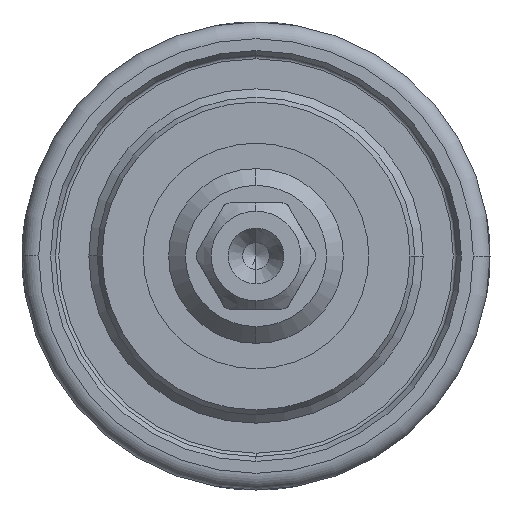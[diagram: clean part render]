
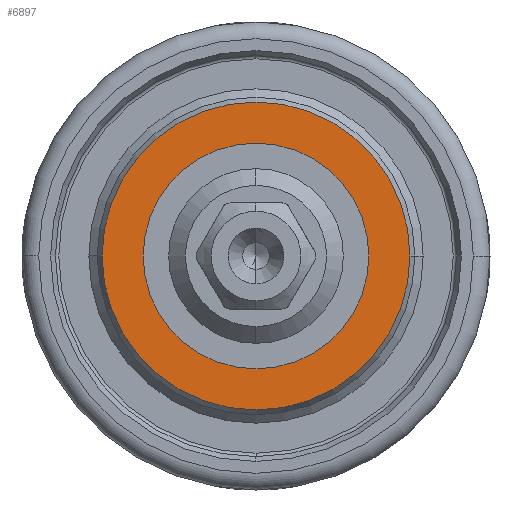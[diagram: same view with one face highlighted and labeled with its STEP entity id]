
A CAD part, left-side view. The second image highlights one B-rep face of the part: STEP entity #6897.
In plain terms, the highlighted planar face has unit normal (-1, 0, 0).
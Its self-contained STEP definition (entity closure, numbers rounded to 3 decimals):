
#2100=CARTESIAN_POINT('',(-51.,0.,0.));
#2101=DIRECTION('',(-1.,0.,0.));
#2102=DIRECTION('',(0.,-1.,0.));
#2103=AXIS2_PLACEMENT_3D('',#2100,#2101,#2102);
#2108=CARTESIAN_POINT('',(-51.,0.,0.));
#2109=DIRECTION('',(-1.,0.,0.));
#2110=DIRECTION('',(0.,1.,0.));
#2111=AXIS2_PLACEMENT_3D('',#2108,#2109,#2110);
#2116=CARTESIAN_POINT('',(-51.,0.,0.));
#2117=DIRECTION('',(1.,0.,0.));
#2118=DIRECTION('',(0.,1.,0.));
#2119=AXIS2_PLACEMENT_3D('',#2116,#2117,#2118);
#2124=CARTESIAN_POINT('',(-51.,0.,0.));
#2125=DIRECTION('',(1.,0.,0.));
#2126=DIRECTION('',(0.,-1.,0.));
#2127=AXIS2_PLACEMENT_3D('',#2124,#2125,#2126);
#4173=CARTESIAN_POINT('',(-51.,6.75,0.));
#4174=CARTESIAN_POINT('',(-51.,-6.75,0.));
#4175=VERTEX_POINT('',#4173);
#4176=VERTEX_POINT('',#4174);
#4177=CARTESIAN_POINT('',(-51.,-9.211,0.));
#4178=CARTESIAN_POINT('',(-51.,9.211,0.));
#4179=VERTEX_POINT('',#4177);
#4180=VERTEX_POINT('',#4178);
#6881=CARTESIAN_POINT('',(-51.,0.,0.));
#6882=DIRECTION('',(-1.,0.,0.));
#6883=DIRECTION('',(0.,1.,0.));
#6884=AXIS2_PLACEMENT_3D('',#6881,#6882,#6883);
#6885=PLANE('1368',#6884);
#6886=ORIENTED_EDGE('1624',*,*,#6864,.F.);
#6888=ORIENTED_EDGE('1626',*,*,#6887,.F.);
#6889=EDGE_LOOP('1368',(#6886,#6888));
#6890=FACE_OUTER_BOUND('1368',#6889,.F.);
#6892=ORIENTED_EDGE('1620',*,*,#6891,.F.);
#6894=ORIENTED_EDGE('1621',*,*,#6893,.F.);
#6895=EDGE_LOOP('1368',(#6892,#6894));
#6896=FACE_BOUND('1368',#6895,.F.);
#2104=CIRCLE('1624',#2103,9.211);
#2112=CIRCLE('1626',#2111,9.211);
#2120=CIRCLE('1620',#2119,6.75);
#2128=CIRCLE('1621',#2127,6.75);
#6864=EDGE_CURVE('1624',#4179,#4180,#2104,.T.);
#6887=EDGE_CURVE('1626',#4180,#4179,#2112,.T.);
#6891=EDGE_CURVE('1620',#4175,#4176,#2120,.T.);
#6893=EDGE_CURVE('1621',#4176,#4175,#2128,.T.);
#6897=ADVANCED_FACE('1368',(#6890,#6896),#6885,.T.);
